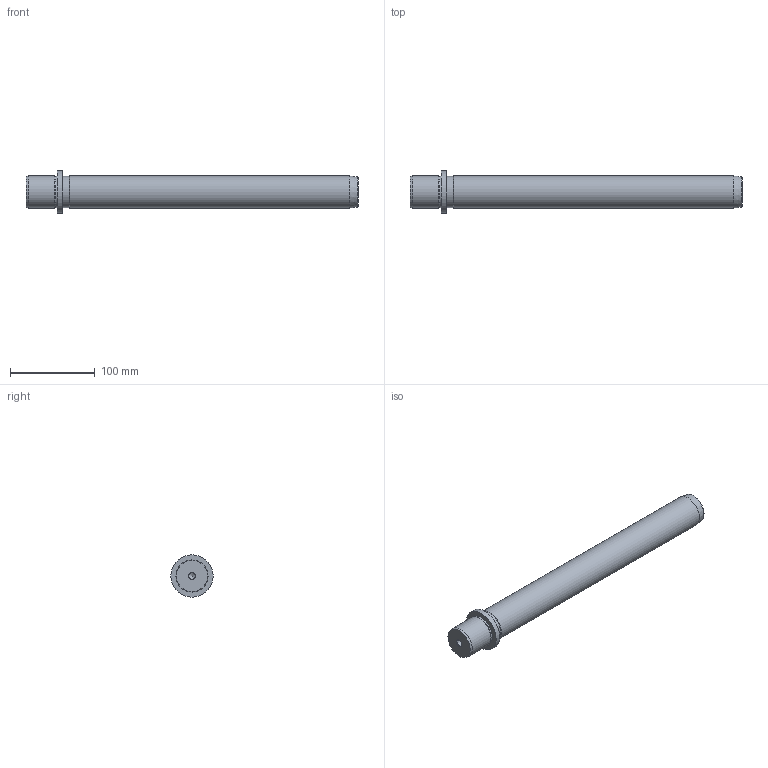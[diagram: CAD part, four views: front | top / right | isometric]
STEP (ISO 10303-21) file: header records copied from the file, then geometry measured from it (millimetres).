
FILE_DESCRIPTION(/* description */ ('Impex Ready, www.impex-ready.pl'),/* implementation_level */ '2;1');
FILE_NAME(/* name */ 'C:\Users\VIKKY\Nextcloud\SM\projekt 10 - części na stronę internetową\Pliki_3D_new\262 CEAQ Słup\262_CEAQ_STEP\CEAQ38355.ipt.step',/* time_stamp */ '2021-12-06T13:43:49+03:00',/* author */ ('SM'),/* organization */ (''),/* preprocessor_version */ 'ST-DEVELOPER v18.1',/* originating_system */ 'Autodesk Inventor 2021',/* authorisation */ '');
FILE_SCHEMA (('AUTOMOTIVE_DESIGN { 1 0 10303 214 3 1 1 }'));
Length unit declared in the file: millimetre
Products named in the file (1): CEAQ38355
Bounding box: 392 x 50 x 50 mm (x, y, z)
Volume: 445379.3 mm3; surface area: 52102.7 mm2
Topology: 1 solids, 1 shells, 20 faces, 38 edges, 22 vertices
Faces by surface type: cone 8, cylinder 7, plane 4, torus 1
Full cylindrical faces by diameter (mm): 8 x2, 37 x2, 38 x2, 50 x1
Entity records: 590 total; most frequent: DIRECTION 99, CARTESIAN_POINT 79, ORIENTED_EDGE 72, AXIS2_PLACEMENT_3D 42, EDGE_CURVE 36, EDGE_LOOP 24, VERTEX_POINT 22, CIRCLE 21
